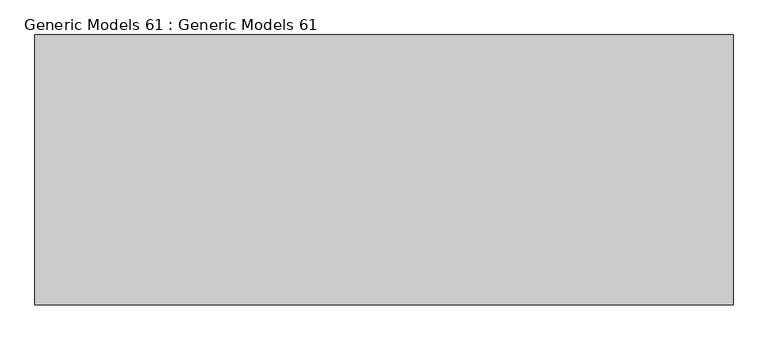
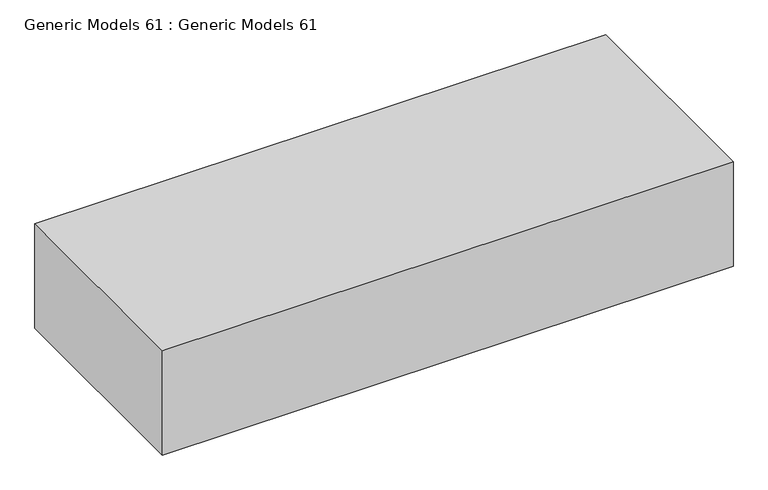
"""IFC4 building model written with IfcOpenShell, lengths in millimetres: proxy geometry, Generic Models 61 : Generic Models 61."""

from ifc_helpers import new_model, si_unit, frame, origin, place, context, project, spatial, polyline, outline, extrude, source, transform, mapped, element, save


def generic_models_61_generic_models_61_ec9a401e(model_context):
    return source(origin(), model_context, "Body", "SweptSolid", [
        extrude(outline(polyline([(-88.9, 3416.3), (-88.9, 2806.7), (-1663.7, 2806.7), (-1663.7, 3416.3), (-88.9, 3416.3)])), frame((0.0, 0.0, 5956.3), z_axis=(0.0, 0.0, 1.0), x_axis=(1.0, 0.0, 0.0)), (0.0, 0.0, 1.0), 304.8),
    ])


if __name__ == "__main__":
    model = new_model("IFC4")
    model_context = context("Model", 3, world=origin())
    ifc_project = project(units=[si_unit("LENGTHUNIT", "METRE", prefix="MILLI")], contexts=[model_context])
    site = spatial("IfcSite", under=ifc_project)
    building = spatial("IfcBuilding", under=site)
    placement = place(None, origin())
    generic_models_61_generic_models_61_shape = generic_models_61_generic_models_61_ec9a401e(model_context)
    element("IfcBuildingElementProxy", 1, Name="Generic Models 61 : Generic Models 61", ObjectType="Generic Models 61 : Generic Models 61", at=placement, inside=building, context=model_context, shape_type="MappedRepresentation", body=[
        mapped(generic_models_61_generic_models_61_shape, transform((0.0, 0.0, 0.0), x_axis=(1.0, 0.0, 0.0), y_axis=(0.0, 1.0, 0.0), z_axis=(0.0, 0.0, 1.0))),
    ])
    save(model, "model.ifc")
